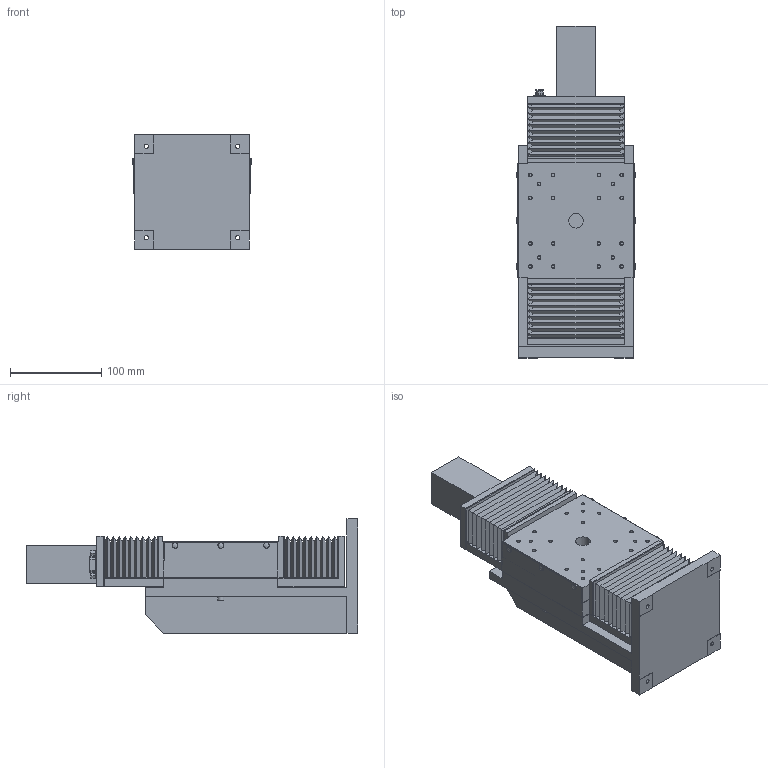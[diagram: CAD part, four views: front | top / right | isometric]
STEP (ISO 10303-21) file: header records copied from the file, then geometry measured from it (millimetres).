
FILE_DESCRIPTION (( 'STEP AP203' ), '1' );
FILE_NAME ('ALZ-106-H2PB.STEP', '2008-03-11T09:33:58', ( '' ), ( '' ), 'SwSTEP 2.0', 'SolidWorks 2007', '' );
FILE_SCHEMA (( 'CONFIG_CONTROL_DESIGN' ));
Length unit declared in the file: millimetre
Products named in the file (5): ALZ-106-H2PB; ALZ-106-H2PB-2_蹬怮椔; ALZ-106-H2PB-1_蹬怮椔; ALZ-106-H2PB-3_蹬怮椔; ALZ-106-H2PB-4_蹬怮椔
Assembly tree (4 placements, depth 2):
  ALZ-106-H2PB
    ALZ-106-H2PB-2_蹬怮椔
    ALZ-106-H2PB-3_蹬怮椔
    ALZ-106-H2PB-1_蹬怮椔
    ALZ-106-H2PB-4_蹬怮椔
Bounding box: 130.65 x 363 x 125 mm (x, y, z)
Volume: 1848520.5 mm3; surface area: 397869.6 mm2
Topology: 4 solids, 14 shells, 796 faces, 1962 edges, 1257 vertices
Faces by surface type: plane 461, cylinder 261, cone 44, sphere 20, bspline 6, torus 4
Entity records: 25240 total; most frequent: CARTESIAN_POINT 5252, DIRECTION 4159, ORIENTED_EDGE 3900, EDGE_CURVE 1950, AXIS2_PLACEMENT_3D 1424, VECTOR 1311, LINE 1311, VERTEX_POINT 1257
